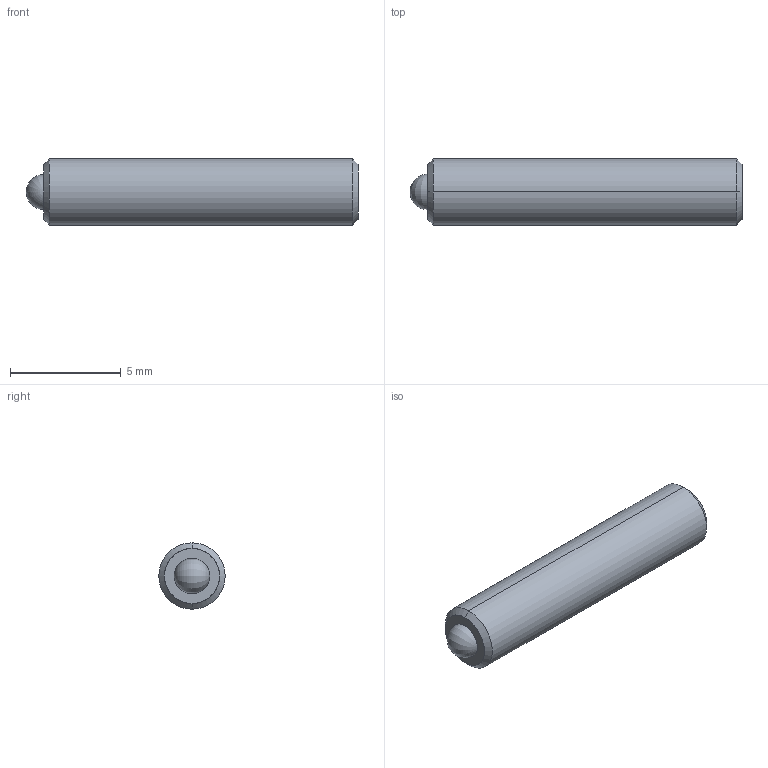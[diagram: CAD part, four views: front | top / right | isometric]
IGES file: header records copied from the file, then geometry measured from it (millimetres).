
Start section: SolidWorks IGES file using analytic representation for surfaces
Global section: file name: C:\Users\workpc\Desktop\KMA Solidworks\TS3-20 Series\TS3-20-15.IGS; native system: SolidWorks 2013; preprocessor: SolidWorks 2013; author: workpc; date: 130213.112041; units: millimetre
Bounding box: 15 x 3 x 3 mm (x, y, z)
Surface area: 167.5 mm2 (no closed solid volume)
Topology: 0 solids, 0 shells, 20 faces, 172 edges, 168 vertices
Faces by surface type: revolution 10, bspline 10
